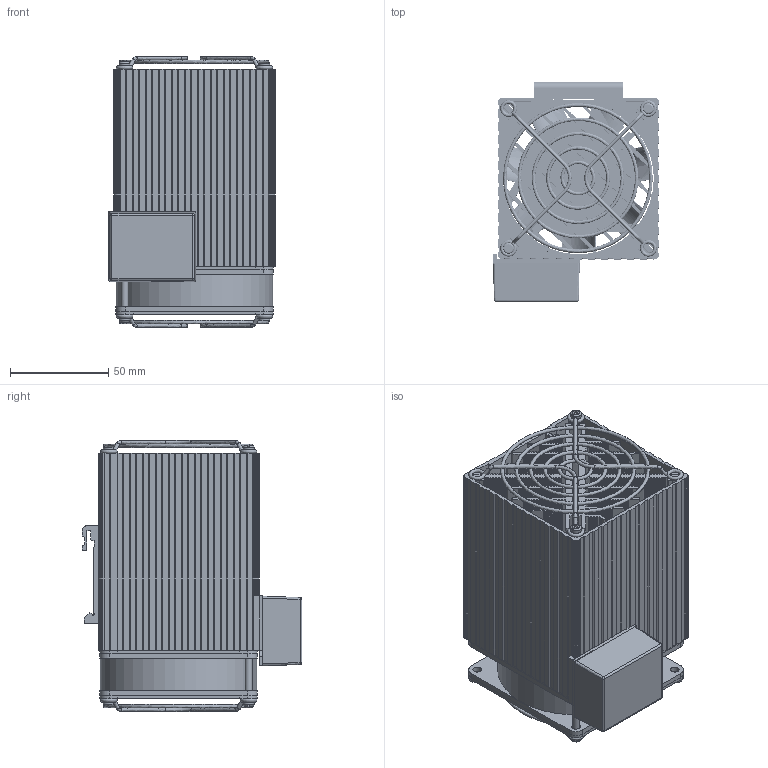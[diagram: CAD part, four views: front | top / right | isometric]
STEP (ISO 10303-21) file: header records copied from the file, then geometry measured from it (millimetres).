
FILE_DESCRIPTION(/* description */ (''),/* implementation_level */ '2;1');
FILE_NAME(/* name */ 'FSHT25~1',/* time_stamp */ '2023-01-24T15:50:21+01:00',/* author */ (''),/* organization */ (''),/* preprocessor_version */ 'ST-DEVELOPER v16.5',/* originating_system */ '',/* authorisation */ '');
FILE_SCHEMA (('AUTOMOTIVE_DESIGN'));
Products named in the file (1): Document
Bounding box: 84.45 x 111.7 x 137.7 mm (x, y, z)
Volume: 332077.6 mm3; surface area: 296670.7 mm2
Topology: 46 solids, 46 shells, 2554 faces, 7352 edges, 4852 vertices
Faces by surface type: bspline 1775, plane 779
Entity records: 87716 total; most frequent: CARTESIAN_POINT 46448, ORIENTED_EDGE 14704, EDGE_CURVE 7352, VERTEX_POINT 4852, B_SPLINE_CURVE_WITH_KNOTS 3757, EDGE_LOOP 2594, ADVANCED_FACE 2554, FACE_OUTER_BOUND 2554
